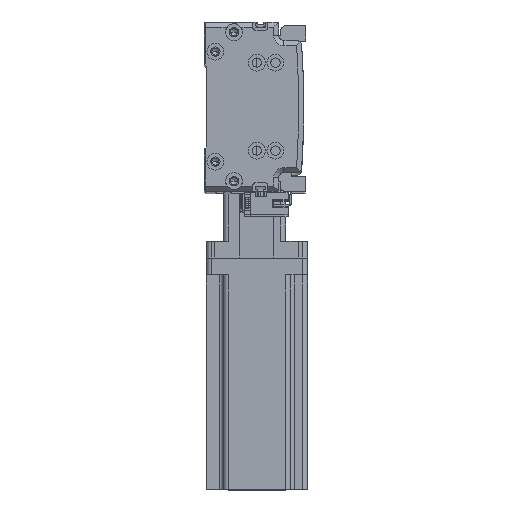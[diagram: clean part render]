
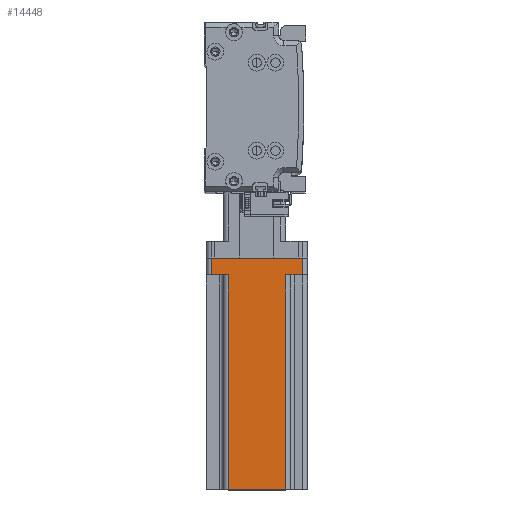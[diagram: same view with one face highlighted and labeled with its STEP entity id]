
A CAD part, top view. The second image highlights one B-rep face of the part: STEP entity #14448.
In plain terms, the highlighted planar face has unit normal (0, 0, 1) as drawn and (0, 1, 0) by its records, which use the part's own axes.
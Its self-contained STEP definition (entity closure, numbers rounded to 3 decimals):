
#316 = VECTOR ( 'NONE', #16832, 1000. ) ;
#3266 = CARTESIAN_POINT ( 'NONE',  ( 17., 30., 137. ) ) ;
#3581 = ORIENTED_EDGE ( 'NONE', *, *, #37083, .T. ) ;
#3920 = LINE ( 'NONE', #49110, #22054 ) ;
#5234 = ORIENTED_EDGE ( 'NONE', *, *, #45530, .T. ) ;
#5907 = VERTEX_POINT ( 'NONE', #6704 ) ;
#6704 = CARTESIAN_POINT ( 'NONE',  ( 17., 30., 137. ) ) ;
#6816 = VECTOR ( 'NONE', #37914, 1000. ) ;
#6846 = EDGE_CURVE ( 'NONE', #42040, #16212, #15311, .T. ) ;
#8157 = AXIS2_PLACEMENT_3D ( 'NONE', #11083, #37944, #14981 ) ;
#8284 = CARTESIAN_POINT ( 'NONE',  ( -27., 30., 10. ) ) ;
#8809 = FACE_OUTER_BOUND ( 'NONE', #21624, .T. ) ;
#9472 = ORIENTED_EDGE ( 'NONE', *, *, #14515, .F. ) ;
#10104 = DIRECTION ( 'NONE',  ( 0., 0., 1. ) ) ;
#10155 = CARTESIAN_POINT ( 'NONE',  ( -17., 30., 137. ) ) ;
#11083 = CARTESIAN_POINT ( 'NONE',  ( 30., 30., 137. ) ) ;
#11918 = DIRECTION ( 'NONE',  ( -1., 0., 0. ) ) ;
#12175 = VECTOR ( 'NONE', #19663, 1000. ) ;
#13366 = CARTESIAN_POINT ( 'NONE',  ( 20., 30., 10. ) ) ;
#14113 = VECTOR ( 'NONE', #33150, 1000. ) ;
#14448 = ADVANCED_FACE ( 'NONE', ( #8809 ), #37785, .F. ) ;
#14515 = EDGE_CURVE ( 'NONE', #5907, #16212, #46710, .T. ) ;
#14981 = DIRECTION ( 'NONE',  ( 1., 0., 0. ) ) ;
#15311 = LINE ( 'NONE', #10155, #14113 ) ;
#16212 = VERTEX_POINT ( 'NONE', #31350 ) ;
#16750 = VERTEX_POINT ( 'NONE', #8284 ) ;
#16832 = DIRECTION ( 'NONE',  ( -1., 0., 0. ) ) ;
#17215 = DIRECTION ( 'NONE',  ( -1., 0., 0. ) ) ;
#17244 = VECTOR ( 'NONE', #11918, 1000. ) ;
#17627 = ORIENTED_EDGE ( 'NONE', *, *, #22652, .T. ) ;
#19663 = DIRECTION ( 'NONE',  ( 0., 0., -1. ) ) ;
#20002 = VERTEX_POINT ( 'NONE', #32632 ) ;
#20437 = CARTESIAN_POINT ( 'NONE',  ( 27., 30., 0. ) ) ;
#20702 = CARTESIAN_POINT ( 'NONE',  ( 30., 30., 0. ) ) ;
#21624 = EDGE_LOOP ( 'NONE', ( #39013, #41802, #9472, #3581, #27153, #48073, #5234, #17627 ) ) ;
#21709 = EDGE_CURVE ( 'NONE', #47624, #20002, #26439, .T. ) ;
#22054 = VECTOR ( 'NONE', #29833, 1000. ) ;
#22652 = EDGE_CURVE ( 'NONE', #49183, #16750, #45254, .T. ) ;
#24715 = CARTESIAN_POINT ( 'NONE',  ( 27., 30., 10. ) ) ;
#24871 = LINE ( 'NONE', #3266, #6816 ) ;
#25892 = CARTESIAN_POINT ( 'NONE',  ( -27., 30., 0. ) ) ;
#25976 = VECTOR ( 'NONE', #10104, 1000. ) ;
#26350 = VERTEX_POINT ( 'NONE', #20437 ) ;
#26439 = LINE ( 'NONE', #13366, #45737 ) ;
#27153 = ORIENTED_EDGE ( 'NONE', *, *, #21709, .F. ) ;
#29833 = DIRECTION ( 'NONE',  ( 1., 0., 0. ) ) ;
#31007 = CARTESIAN_POINT ( 'NONE',  ( 30., 30., 137. ) ) ;
#31350 = CARTESIAN_POINT ( 'NONE',  ( -17., 30., 137. ) ) ;
#32632 = CARTESIAN_POINT ( 'NONE',  ( 17., 30., 10. ) ) ;
#33150 = DIRECTION ( 'NONE',  ( 0., 0., 1. ) ) ;
#35484 = EDGE_CURVE ( 'NONE', #47624, #26350, #42887, .T. ) ;
#36925 = CARTESIAN_POINT ( 'NONE',  ( -27., 30., 137. ) ) ;
#37083 = EDGE_CURVE ( 'NONE', #5907, #20002, #24871, .T. ) ;
#37785 = PLANE ( 'NONE',  #8157 ) ;
#37914 = DIRECTION ( 'NONE',  ( 0., 0., -1. ) ) ;
#37944 = DIRECTION ( 'NONE',  ( 0., -1., 0. ) ) ;
#39013 = ORIENTED_EDGE ( 'NONE', *, *, #42989, .T. ) ;
#39219 = CARTESIAN_POINT ( 'NONE',  ( -17., 30., 10. ) ) ;
#41802 = ORIENTED_EDGE ( 'NONE', *, *, #6846, .T. ) ;
#42040 = VERTEX_POINT ( 'NONE', #39219 ) ;
#42526 = LINE ( 'NONE', #20702, #316 ) ;
#42887 = LINE ( 'NONE', #46391, #12175 ) ;
#42989 = EDGE_CURVE ( 'NONE', #16750, #42040, #3920, .T. ) ;
#45254 = LINE ( 'NONE', #36925, #25976 ) ;
#45530 = EDGE_CURVE ( 'NONE', #26350, #49183, #42526, .T. ) ;
#45737 = VECTOR ( 'NONE', #17215, 1000. ) ;
#46391 = CARTESIAN_POINT ( 'NONE',  ( 27., 30., 137. ) ) ;
#46710 = LINE ( 'NONE', #31007, #17244 ) ;
#47624 = VERTEX_POINT ( 'NONE', #24715 ) ;
#48073 = ORIENTED_EDGE ( 'NONE', *, *, #35484, .T. ) ;
#49110 = CARTESIAN_POINT ( 'NONE',  ( -20., 30., 10. ) ) ;
#49183 = VERTEX_POINT ( 'NONE', #25892 ) ;
